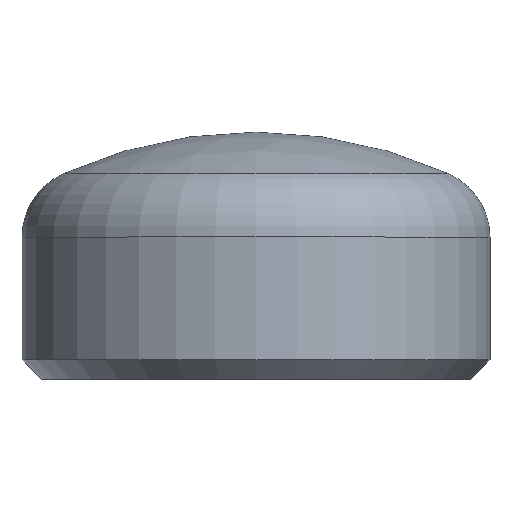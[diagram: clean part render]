
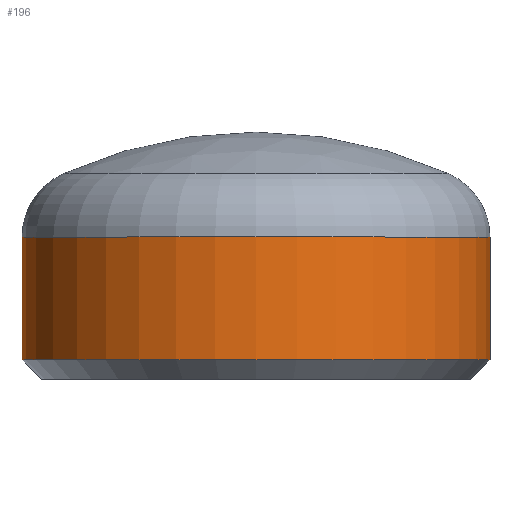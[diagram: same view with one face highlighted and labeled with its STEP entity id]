
A CAD part, top view. The second image highlights one B-rep face of the part: STEP entity #196.
In plain terms, the highlighted cylindrical face has radius 84.15 mm (diameter 168.3 mm), a partial arc.
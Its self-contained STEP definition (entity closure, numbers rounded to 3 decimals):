
#3 = VERTEX_POINT ( 'NONE', #393 ) ;
#14 = DIRECTION ( 'NONE',  ( 1., 0., 0. ) ) ;
#20 = DIRECTION ( 'NONE',  ( 0., 1., 0. ) ) ;
#55 = DIRECTION ( 'NONE',  ( 0., 1., 0. ) ) ;
#64 = VERTEX_POINT ( 'NONE', #222 ) ;
#65 = EDGE_CURVE ( 'NONE', #105, #217, #258, .T. ) ;
#67 = ORIENTED_EDGE ( 'NONE', *, *, #187, .T. ) ;
#73 = EDGE_CURVE ( 'NONE', #64, #3, #185, .T. ) ;
#86 = DIRECTION ( 'NONE',  ( -1., 0., 0. ) ) ;
#90 = CARTESIAN_POINT ( 'NONE',  ( 84.15, 2817.965, 0. ) ) ;
#93 = CARTESIAN_POINT ( 'NONE',  ( 0., 51.093, 0. ) ) ;
#105 = VERTEX_POINT ( 'NONE', #114 ) ;
#114 = CARTESIAN_POINT ( 'NONE',  ( -84.15, 7.01, 0. ) ) ;
#134 = EDGE_LOOP ( 'NONE', ( #67, #252, #346, #320 ) ) ;
#136 = VECTOR ( 'NONE', #55, 1000. ) ;
#157 = FACE_OUTER_BOUND ( 'NONE', #134, .T. ) ;
#173 = CIRCLE ( 'NONE', #307, 84.15 ) ;
#185 = LINE ( 'NONE', #90, #269 ) ;
#187 = EDGE_CURVE ( 'NONE', #105, #64, #173, .T. ) ;
#196 = ADVANCED_FACE ( 'NONE', ( #157 ), #305, .T. ) ;
#217 = VERTEX_POINT ( 'NONE', #231 ) ;
#222 = CARTESIAN_POINT ( 'NONE',  ( 84.15, 7.01, 0. ) ) ;
#231 = CARTESIAN_POINT ( 'NONE',  ( -84.15, 51.093, 0. ) ) ;
#242 = DIRECTION ( 'NONE',  ( 0., 1., 0. ) ) ;
#252 = ORIENTED_EDGE ( 'NONE', *, *, #73, .T. ) ;
#258 = LINE ( 'NONE', #446, #136 ) ;
#269 = VECTOR ( 'NONE', #400, 1000. ) ;
#300 = CARTESIAN_POINT ( 'NONE',  ( 0., 2817.965, 0. ) ) ;
#301 = AXIS2_PLACEMENT_3D ( 'NONE', #300, #443, #86 ) ;
#305 = CYLINDRICAL_SURFACE ( 'NONE', #301, 84.15 ) ;
#307 = AXIS2_PLACEMENT_3D ( 'NONE', #335, #20, #14 ) ;
#320 = ORIENTED_EDGE ( 'NONE', *, *, #65, .F. ) ;
#335 = CARTESIAN_POINT ( 'NONE',  ( 0., 7.01, 0. ) ) ;
#346 = ORIENTED_EDGE ( 'NONE', *, *, #359, .F. ) ;
#359 = EDGE_CURVE ( 'NONE', #217, #3, #433, .T. ) ;
#362 = AXIS2_PLACEMENT_3D ( 'NONE', #93, #242, #385 ) ;
#385 = DIRECTION ( 'NONE',  ( -1., 0., 0. ) ) ;
#393 = CARTESIAN_POINT ( 'NONE',  ( 84.15, 51.093, 0. ) ) ;
#400 = DIRECTION ( 'NONE',  ( 0., 1., 0. ) ) ;
#433 = CIRCLE ( 'NONE', #362, 84.15 ) ;
#443 = DIRECTION ( 'NONE',  ( 0., 1., 0. ) ) ;
#446 = CARTESIAN_POINT ( 'NONE',  ( -84.15, 2817.965, 0. ) ) ;
